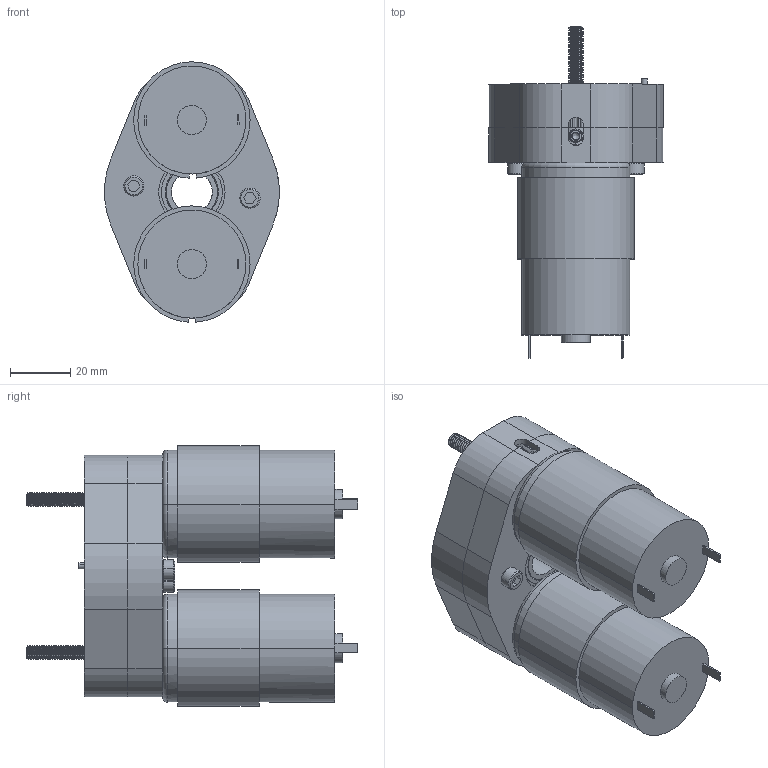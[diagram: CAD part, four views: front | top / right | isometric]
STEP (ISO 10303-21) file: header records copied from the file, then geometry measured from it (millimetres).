
FILE_DESCRIPTION (( 'STEP AP214' ), '1' );
FILE_NAME ('217-3141-550 STEP.STEP', '2013-12-10T16:27:03', ( '' ), ( '' ), 'SwSTEP 2.0', 'SolidWorks 2013', '' );
FILE_SCHEMA (( 'AUTOMOTIVE_DESIGN' ));
Length unit declared in the file: millimetre
Products named in the file (14): 217-3141-001 Rev1; 217-3141-550 STEP; 217-2625-012 Rev1; BaneBots RS550; 217-3141-003 Rev1; SSA_SSA0832-0750ZC; SSA_SSAM3-0008ZC; 91251A346_91251A346; NUT-832-NYLOCK; SSS1032-0188-ZB; PINL-M020-006-S; 217-2741; 217-3141-006 Rev1_30T 32DP; 217-3141-007 Rev1_30T 32DP
Assembly tree (24 placements, depth 2):
  217-3141-550 STEP
    217-3141-001 Rev1
    217-3141-007 Rev1_30T 32DP
    217-3141-006 Rev1_30T 32DP  x2
    217-2741  x2
    PINL-M020-006-S
    SSS1032-0188-ZB  x2
    NUT-832-NYLOCK  x2
    91251A346_91251A346  x2
    SSA_SSAM3-0008ZC  x4
    SSA_SSA0832-0750ZC  x2
    217-3141-003 Rev1
    BaneBots RS550  x2
    217-2625-012 Rev1  x2
Bounding box: 57.91 x 110 x 86.35 mm (x, y, z)
Volume: 166194.9 mm3; surface area: 66939.4 mm2
Topology: 24 solids, 24 shells, 1589 faces, 4320 edges, 2845 vertices
Faces by surface type: cylinder 826, plane 503, bspline 130, cone 102, torus 28
Entity records: 60686 total; most frequent: CARTESIAN_POINT 32471, ORIENTED_EDGE 6176, DIRECTION 5393, EDGE_CURVE 3088, VERTEX_POINT 2054, AXIS2_PLACEMENT_3D 1969, LINE 1455, VECTOR 1455
